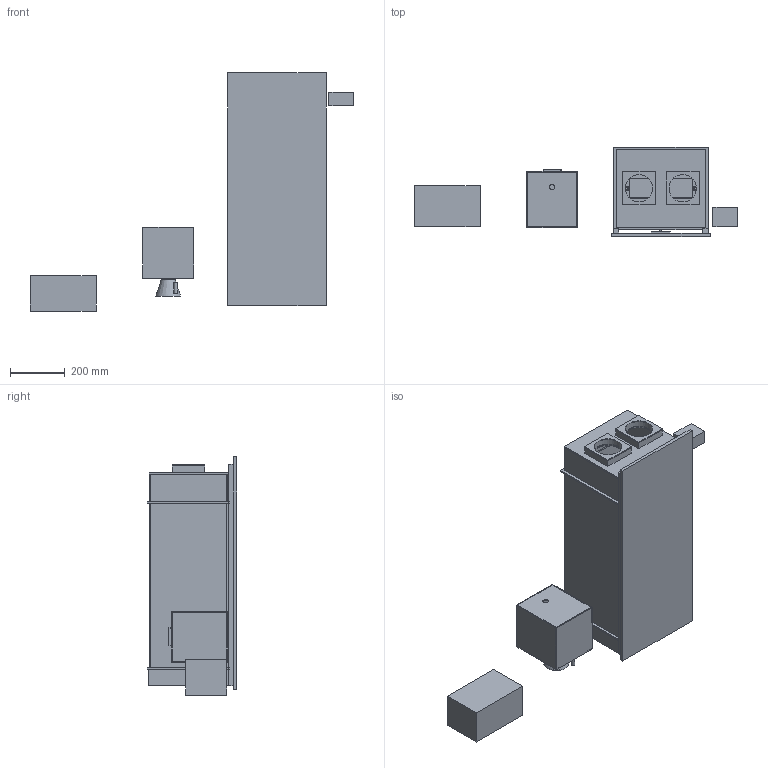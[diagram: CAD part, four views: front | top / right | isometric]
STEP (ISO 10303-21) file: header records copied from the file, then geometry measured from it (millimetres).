
FILE_DESCRIPTION(('Open CASCADE Model'),'2;1');
FILE_NAME('Open CASCADE Shape Model','2026-10-16T19:20:09',('Author'),( 'Open CASCADE'),'Open CASCADE STEP processor 7.8','Open CASCADE 7.8' ,'Unknown');
FILE_SCHEMA(('AUTOMOTIVE_DESIGN { 1 0 10303 214 1 1 1 1 }'));
Length unit declared in the file: millimetre
Products named in the file (46): FN_LAB_v04; B01; B02; B03; B04; B05; B06; C01; C02; C03; E01; E02; E03; E04; E05; E06; R01; R02; R03; R04; R05; R06; R07; S01; S02; S03; G01; G02; G11; G12; G13; R08; R09; M01; H01; F01; F02; F03; A01; A02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
Assembly tree (45 placements, depth 2):
  FN_LAB_v04
    B01
    B02
    B03
    B04
    B05
    B06
    C01
    C02
    C03
    E01
    E02
    E03
    E04
    E05
    E06
    R01
    R02
    R03
    R04
    R05
    R06
    R07
    S01
    S02
    S03
    G01
    G02
    G11
    G12
    G13
    R08
    R09
    M01
    H01
    F01
    F02
    F03
    A01
    A02
    A03
    A04
    A05
    D01
    Q01
    K01
Bounding box: 1180 x 326 x 870 mm (x, y, z)
Volume: 20243647 mm3; surface area: 4407186.5 mm2
Topology: 45 solids, 45 shells, 422 faces, 897 edges, 594 vertices
Faces by surface type: plane 351, cylinder 69, cone 2
Full cylindrical faces by diameter (mm): 2 x27, 4 x27, 5 x1, 5.5 x2, 8 x3, 12 x1, 20 x1, 50 x1, 100 x2, 110 x2, 112 x2
Entity records: 24252 total; most frequent: CARTESIAN_POINT 4399, DIRECTION 3513, LINE 2229, VECTOR 2229, ORIENTED_EDGE 1794, PCURVE 1794, DEFINITIONAL_REPRESENTATION 1794, EDGE_CURVE 897
